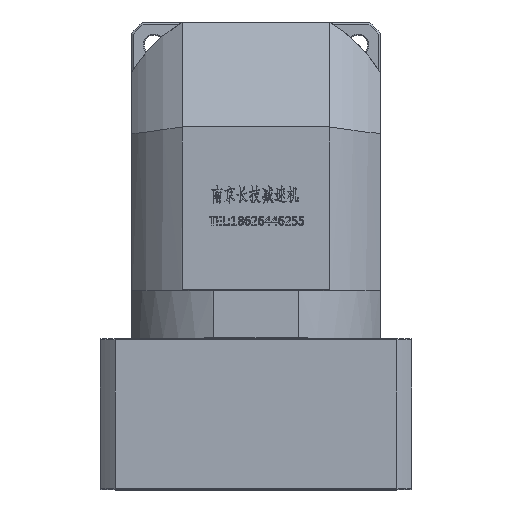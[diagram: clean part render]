
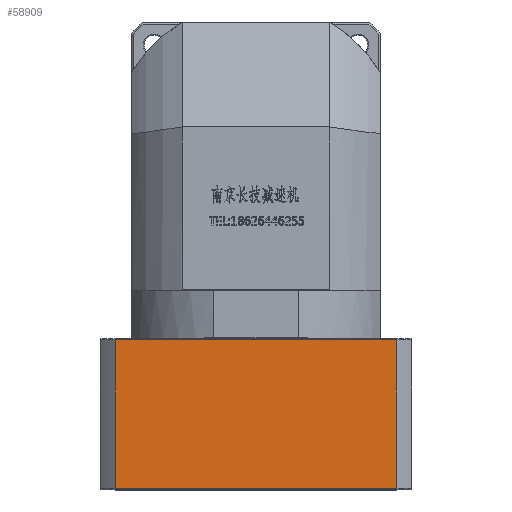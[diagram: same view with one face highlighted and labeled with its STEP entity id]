
A CAD part, top view. The second image highlights one B-rep face of the part: STEP entity #58909.
In plain terms, the highlighted planar face has unit normal (0, 0, 1).
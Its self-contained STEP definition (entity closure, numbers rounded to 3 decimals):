
#1273 = CARTESIAN_POINT ( 'NONE',  ( 80.091, 84.384, -126.408 ) ) ;
#2744 = VERTEX_POINT ( 'NONE', #52527 ) ;
#6811 = CARTESIAN_POINT ( 'NONE',  ( -80.893, -0.616, -126.408 ) ) ;
#8179 = CARTESIAN_POINT ( 'NONE',  ( -80.893, 84.384, -126.408 ) ) ;
#12208 = EDGE_CURVE ( 'NONE', #26746, #89284, #34140, .T. ) ;
#16975 = ORIENTED_EDGE ( 'NONE', *, *, #17867, .F. ) ;
#17867 = EDGE_CURVE ( 'NONE', #89284, #107054, #112077, .T. ) ;
#21369 = ORIENTED_EDGE ( 'NONE', *, *, #155137, .F. ) ;
#23696 = CARTESIAN_POINT ( 'NONE',  ( 80.091, 427.69, -126.408 ) ) ;
#25204 = EDGE_CURVE ( 'NONE', #107054, #2744, #47617, .T. ) ;
#25644 = LINE ( 'NONE', #33806, #55079 ) ;
#26746 = VERTEX_POINT ( 'NONE', #6811 ) ;
#28204 = AXIS2_PLACEMENT_3D ( 'NONE', #57321, #81418, #94929 ) ;
#33806 = CARTESIAN_POINT ( 'NONE',  ( -71.401, -0.616, -126.408 ) ) ;
#34140 = LINE ( 'NONE', #109113, #42492 ) ;
#42492 = VECTOR ( 'NONE', #150183, 1000. ) ;
#47217 = DIRECTION ( 'NONE',  ( -1., 0., 0. ) ) ;
#47617 = LINE ( 'NONE', #23696, #108586 ) ;
#48930 = FACE_OUTER_BOUND ( 'NONE', #145382, .T. ) ;
#52527 = CARTESIAN_POINT ( 'NONE',  ( 80.091, -0.616, -126.408 ) ) ;
#55079 = VECTOR ( 'NONE', #47217, 1000. ) ;
#57321 = CARTESIAN_POINT ( 'NONE',  ( -89.401, -1.116, -126.408 ) ) ;
#58909 = ADVANCED_FACE ( 'NONE', ( #48930 ), #161806, .F. ) ;
#59776 = ORIENTED_EDGE ( 'NONE', *, *, #25204, .F. ) ;
#81418 = DIRECTION ( 'NONE',  ( 0., 0., -1. ) ) ;
#89284 = VERTEX_POINT ( 'NONE', #8179 ) ;
#94929 = DIRECTION ( 'NONE',  ( 0., 1., 0. ) ) ;
#107054 = VERTEX_POINT ( 'NONE', #1273 ) ;
#108586 = VECTOR ( 'NONE', #127513, 1000. ) ;
#109113 = CARTESIAN_POINT ( 'NONE',  ( -80.893, 427.69, -126.408 ) ) ;
#112077 = LINE ( 'NONE', #112204, #118292 ) ;
#112204 = CARTESIAN_POINT ( 'NONE',  ( -89.401, 84.384, -126.408 ) ) ;
#118292 = VECTOR ( 'NONE', #152108, 1000. ) ;
#127513 = DIRECTION ( 'NONE',  ( 0., -1., 0. ) ) ;
#129254 = ORIENTED_EDGE ( 'NONE', *, *, #12208, .F. ) ;
#145382 = EDGE_LOOP ( 'NONE', ( #59776, #16975, #129254, #21369 ) ) ;
#150183 = DIRECTION ( 'NONE',  ( 0., 1., 0. ) ) ;
#152108 = DIRECTION ( 'NONE',  ( 1., 0., 0. ) ) ;
#155137 = EDGE_CURVE ( 'NONE', #2744, #26746, #25644, .T. ) ;
#161806 = PLANE ( 'NONE',  #28204 ) ;
